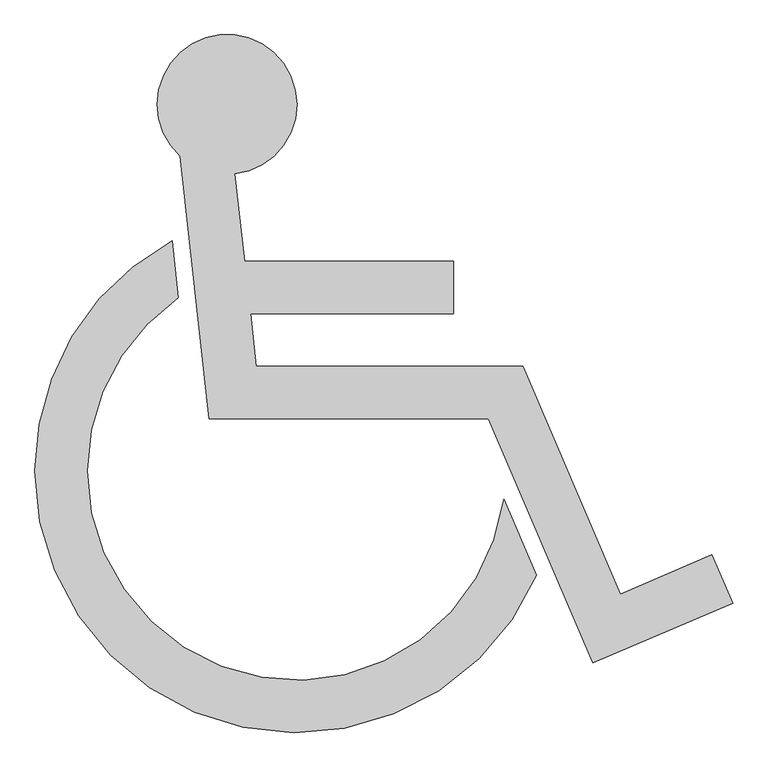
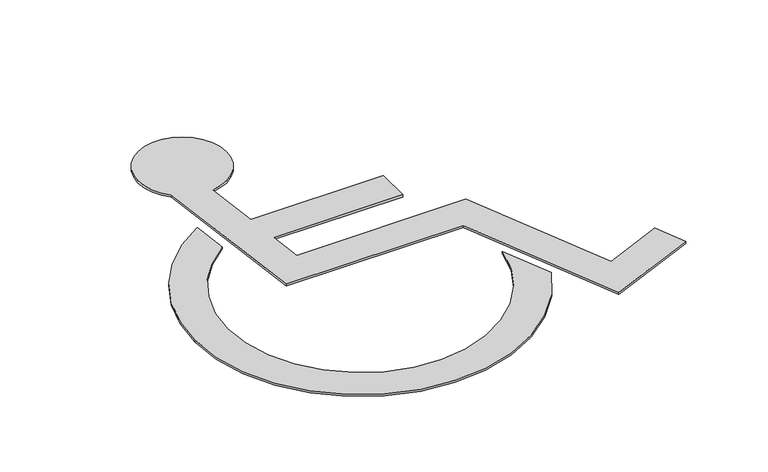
"""IFC4 building model written with IfcOpenShell, lengths in millimetres: proxy geometry, 駐車エリア - 身障者用 : 駐車エリア - 身障者用."""

from ifc_helpers import new_model, si_unit, point, frame_2d, origin, origin_with_axes, place, context, project, spatial, polyline, circle_curve, trimmed, segment, composite_curve, outline, extrude, source, transform, mapped, element, save


def parking_146f316f(model_context):
    return source(origin(), model_context, "Body", "SweptSolid", [
        extrude(outline(composite_curve([segment(trimmed(circle_curve(frame_2d((-50.0, -10.0)), 750.0), [point((637.9267845, -308.7586638))], [point((-800.0, -10.0))], False, "CARTESIAN"), True, "CONTINUOUS"), segment(trimmed(circle_curve(frame_2d((-50.0, -10.0)), 750.0), [point((-800.0, -10.0))], [point((-406.9322055, 649.6206491))], False, "CARTESIAN"), True, "CONTINUOUS"), segment(polyline([(-406.9322055, 649.6206491), (-388.6720091, 485.2789822)]), True, "CONTINUOUS"), segment(trimmed(circle_curve(frame_2d((-50.0, -10.0)), 600.0), [point((-388.6720091, 485.2789822))], [point((-650.0, -10.0))], True, "CARTESIAN"), True, "CONTINUOUS"), segment(trimmed(circle_curve(frame_2d((-50.0, -10.0)), 600.0), [point((-650.0, -10.0))], [point((544.5300809, -90.8330555))], True, "CARTESIAN"), True, "CONTINUOUS"), segment(polyline([(544.5300809, -90.8330555), (637.9267845, -308.7586638)]), True, "CONTINUOUS")], self_intersect=False)), origin_with_axes(), (0.0, 0.0, 1.0), 10.0),
        extrude(outline(composite_curve([segment(polyline([(878.7839, -363.0404), (1140.9121, -250.6997), (1200.0, -388.5715), (800.0, -560.0), (500.0, 140.0), (-300.0, 140.0), (-383.5508079, 891.9568708)]), True, "CONTINUOUS"), segment(trimmed(circle_curve(frame_2d((-249.0769, 1040.0)), 200.0), [point((-383.5508079, 891.9568708))], [point((-226.9906058, 841.2232518))], False, "CARTESIAN"), True, "CONTINUOUS"), segment(polyline([(-226.9906058, 841.2232518), (-199.0769, 590.0), (400.0, 590.0), (400.0, 440.0), (-182.4102, 440.0), (-165.7436, 290.0), (598.9094, 290.0), (878.7839, -363.0404)]), True, "CONTINUOUS")], self_intersect=False)), origin_with_axes(), (0.0, 0.0, 1.0), 10.0),
    ])


if __name__ == "__main__":
    model = new_model("IFC4")
    model_context = context("Model", 3, world=origin())
    ifc_project = project(units=[si_unit("LENGTHUNIT", "METRE", prefix="MILLI")], contexts=[model_context])
    site = spatial("IfcSite", under=ifc_project)
    building = spatial("IfcBuilding", under=site)
    placement = place(None, origin())
    parking_shape = parking_146f316f(model_context)
    element("IfcBuildingElementProxy", 1, Name="駐車エリア - 身障者用 : 駐車エリア - 身障者用", ObjectType="駐車エリア - 身障者用 : 駐車エリア - 身障者用", at=placement, inside=building, context=model_context, shape_type="MappedRepresentation", body=[
        mapped(parking_shape, transform((0.0, 0.0, 0.0), x_axis=(1.0, 0.0, 0.0), y_axis=(0.0, 1.0, 0.0), z_axis=(0.0, 0.0, 1.0))),
    ])
    save(model, "model.ifc")
